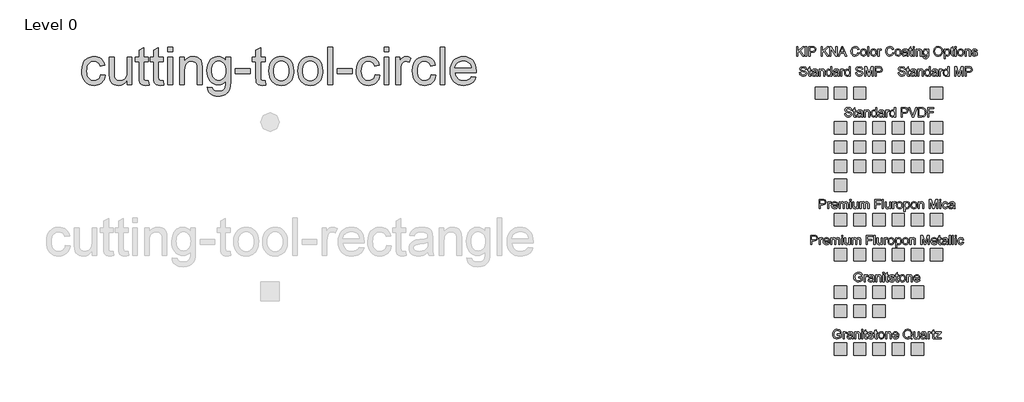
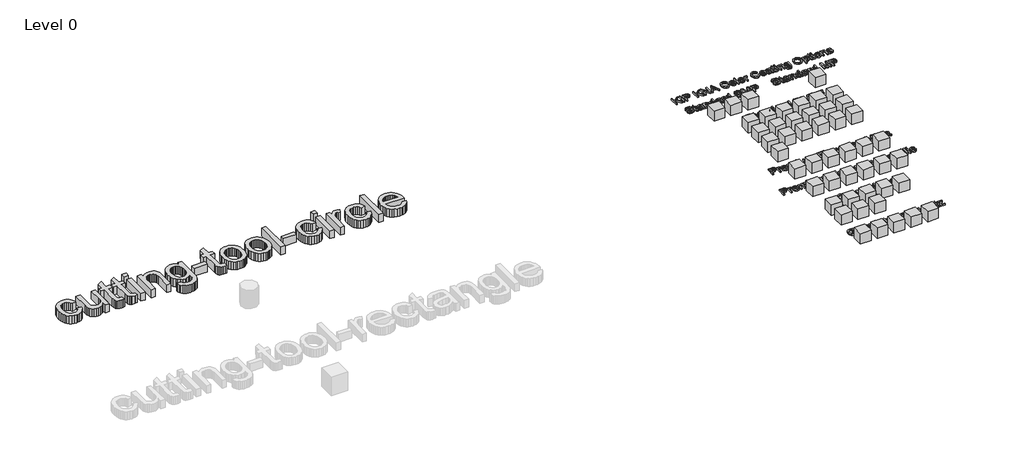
# One storey, part 5 of 5: 50 proxies.
"""IFC4 building model written with IfcOpenShell, lengths in millimetres."""

from ifc_helpers import new_model, si_unit, origin, origin_with_axes, place, context, project, spatial, polyline, outline, extrude, transform, mapped, element, save
from components import ks_color_sample_ks_color_sample_0243efec, r19_kna_color_range_kingspan_quadcore_4278cd54, r19_kna_color_range_kingspan_quadcore_c5814d20, r19_kna_color_range_kingspan_quadcore_91b79b7c

model = new_model("IFC4")

# Units and contexts
model_context = context("Model", 3, world=origin())
ifc_project = project(units=[si_unit("LENGTHUNIT", "METRE", prefix="MILLI")], contexts=[model_context])

# Site, building, storey
site = spatial("IfcSite", under=ifc_project)
building = spatial("IfcBuilding", under=site)
storey = spatial("IfcBuildingStorey", under=building, Name="Level 0", Elevation=0.0)

# Proxies
placement = place(None, origin())
element("IfcBuildingElementProxy", 1, Name="24\" Arial", ObjectType="24\" Arial", at=placement, inside=storey, context=model_context, shape_type="SweptSolid", body=[
    extrude(outline(polyline([(548.8505777, 13935.1809758), (624.9923512, 13925.6632541), (616.710818, 13889.7347842), (603.7633704, 13857.9424336), (586.1500085, 13830.2862023), (563.8707322, 13806.7660902), (537.8643013, 13787.9955444), (509.0694753, 13774.5880116), (477.4862543, 13766.543492), (443.1146383, 13763.8619854), (400.4103685, 13767.6030821), (362.1210574, 13778.8263721), (328.2467052, 13797.5318554), (298.7873117, 13823.719532), (274.9418869, 13856.8967855), (257.9094406, 13896.5709994), (247.6899729, 13942.7421737), (244.2834836, 13995.4103084), (250.1019346, 14063.1683075), (257.3749983, 14093.6594072), (267.5572874, 14121.8919068), (280.718512, 14147.2988328), (296.9283817, 14169.3132115), (316.1868967, 14187.935043), (338.4940569, 14203.1643272), (362.8413928, 14215.0057114), (388.2204349, 14223.4638429), (414.6311831, 14228.5387219), (442.0736375, 14230.2303482), (475.8550432, 14227.9066857), (506.4112054, 14220.9356981), (533.742124, 14209.3173855), (557.847799, 14193.0517479), (578.3192658, 14172.5105712), (594.7475598, 14148.0656414), (607.1326811, 14119.7169587), (615.4746295, 14087.4645229), (539.332856, 14077.9468012), (525.521006, 14111.1658806), (504.0131857, 14134.9787741), (475.9991103, 14149.3111246), (442.6684951, 14154.0885747), (416.7968366, 14151.7370282), (393.4626175, 14144.6823888), (372.6658379, 14132.9246564), (354.4064979, 14116.4638311), (339.539705, 14094.9188322), (328.9205673, 14067.9085791), (322.5490847, 14035.4330717), (320.4252571, 13997.49231), (322.5026114, 13958.9799274), (328.7346743, 13926.1279866), (339.1214458, 13898.9364878), (353.6629258, 13877.4054309), (371.5597746, 13861.0421994), (392.0126521, 13849.3541769), (415.0215584, 13842.3413634), (440.5864935, 13840.0037589), (480.0143991, 13845.8407992), (497.0654347, 13853.1370995), (512.3411921, 13863.35192), (525.4141175, 13876.5967963), (535.8566569, 13892.9832644), (543.6688103, 13912.5113243), (548.8505777, 13935.1809758)])), origin_with_axes(), (0.0, 0.0, 1.0), 152.4),
    extrude(outline(polyline([(977.1480537, 13773.3797071), (977.1480537, 13850.2650526), (949.5987109, 13812.4637107), (917.5135788, 13785.4627522), (880.8926574, 13769.2621771), (839.7359468, 13763.8619854), (802.650293, 13767.6542027), (768.1299625, 13779.0308544), (739.1678329, 13796.1330105), (718.7567813, 13817.1017411), (705.0192885, 13842.5690824), (696.0778351, 13873.1670705), (691.616403, 13943.9551255), (691.616403, 14220.7126265), (767.7581765, 14220.7126265), (767.7581765, 13979.7952963), (768.9107132, 13931.6118302), (772.368323, 13902.1663787), (783.4661352, 13876.2714836), (802.4829893, 13856.5854147), (828.1548128, 13844.1491729), (859.2175334, 13840.0037589), (892.0648268, 13844.2421194), (922.79294, 13856.9572007), (948.1301561, 13876.977877), (964.8047584, 13903.1330223), (974.0622299, 13938.9546038), (977.1480537, 13987.9745883), (977.1480537, 14220.7126265), (1053.2898272, 14220.7126265), (1053.2898272, 13773.3797071), (977.1480537, 13773.3797071)])), origin_with_axes(), (0.0, 0.0, 1.0), 152.4),
    extrude(outline(polyline([(1319.7860345, 13836.8807565), (1329.3037562, 13771.1489911), (1299.1519114, 13765.6837368), (1272.3461405, 13763.8619854), (1235.7995764, 13767.0221665), (1208.5476623, 13776.5027095), (1189.2891473, 13791.1138995), (1176.7227804, 13809.6660211), (1169.8075607, 13841.5280816), (1167.5024875, 13896.0690883), (1167.5024875, 14144.570853), (1110.3961574, 14144.570853), (1110.3961574, 14220.7126265), (1167.5024875, 14220.7126265), (1167.5024875, 14329.4228539), (1243.644261, 14374.1858888), (1243.644261, 14220.7126265), (1319.7860345, 14220.7126265), (1319.7860345, 14144.570853), (1243.644261, 14144.570853), (1243.644261, 13898.2998043), (1247.6595499, 13859.0392023), (1260.67206, 13845.1344058), (1271.6583364, 13841.2864207), (1286.622723, 13840.0037589), (1319.7860345, 13836.8807565)])), origin_with_axes(), (0.0, 0.0, 1.0), 152.4),
    extrude(outline(polyline([(1557.7290768, 13836.8807565), (1567.2467985, 13771.1489911), (1537.0949536, 13765.6837368), (1510.2891827, 13763.8619854), (1473.7426186, 13767.0221665), (1446.4907045, 13776.5027095), (1427.2321896, 13791.1138995), (1414.6658226, 13809.6660211), (1407.750603, 13841.5280816), (1405.4455298, 13896.0690883), (1405.4455298, 14144.570853), (1348.3391996, 14144.570853), (1348.3391996, 14220.7126265), (1405.4455298, 14220.7126265), (1405.4455298, 14329.4228539), (1481.5873033, 14374.1858888), (1481.5873033, 14220.7126265), (1557.7290768, 14220.7126265), (1557.7290768, 14144.570853), (1481.5873033, 14144.570853), (1481.5873033, 13898.2998043), (1485.6025921, 13859.0392023), (1498.6151022, 13845.1344058), (1509.6013786, 13841.2864207), (1524.5657653, 13840.0037589), (1557.7290768, 13836.8807565)])), origin_with_axes(), (0.0, 0.0, 1.0), 152.4),
    extrude(outline(polyline([(1633.8708503, 14306.3721217), (1633.8708503, 14382.5138952), (1710.0126238, 14382.5138952), (1710.0126238, 14306.3721217), (1633.8708503, 14306.3721217)])), origin_with_axes(), (0.0, 0.0, 1.0), 152.4),
    extrude(outline(polyline([(1633.8708503, 13773.3797071), (1633.8708503, 14220.7126265), (1710.0126238, 14220.7126265), (1710.0126238, 13773.3797071), (1633.8708503, 13773.3797071)])), origin_with_axes(), (0.0, 0.0, 1.0), 152.4),
    extrude(outline(polyline([(1824.2252841, 13773.3797071), (1824.2252841, 14220.7126265), (1900.3670576, 14220.7126265), (1900.3670576, 14158.2525779), (1926.8196318, 14189.7428524), (1958.5887458, 14212.2359056), (1995.6743996, 14225.7317376), (2038.0765933, 14230.2303482), (2075.6083904, 14226.6054347), (2109.9800064, 14215.7306941), (2138.6447073, 14198.9631453), (2159.0557588, 14177.6598073), (2172.9047875, 14151.876448), (2181.8834195, 14121.6688352), (2185.8987083, 14048.0552065), (2185.8987083, 13773.3797071), (2109.7569348, 13773.3797071), (2109.7569348, 14037.7939128), (2107.5633974, 14077.1660506), (2100.9827851, 14105.1615366), (2088.8439721, 14125.2193915), (2069.9758324, 14140.7786358), (2045.7911529, 14150.76109), (2017.7027203, 14154.0885747), (1994.5822782, 14152.22035), (1973.1069892, 14146.615676), (1953.2768532, 14137.2745527), (1935.0918703, 14124.19698), (1919.8997648, 14105.895814), (1909.0482608, 14080.8839106), (1902.5373584, 14049.1612699), (1900.3670576, 14010.7278917), (1900.3670576, 13773.3797071), (1824.2252841, 13773.3797071)])), origin_with_axes(), (0.0, 0.0, 1.0), 152.4),
    extrude(outline(polyline([(2271.5582035, 13735.3088204), (2347.699977, 13725.7910987), (2356.1023407, 13701.9967944), (2372.3865677, 13685.6382103), (2404.3973426, 13672.923129), (2446.2976252, 13668.6847685), (2490.9863028, 13673.480808), (2509.0365132, 13679.4758573), (2524.2239715, 13687.8689263), (2547.2747037, 13710.9196585), (2561.4025718, 13741.7035396), (2565.5293965, 13774.4578865), (2566.6075759, 13830.4860372), (2541.2703597, 13805.5020178), (2512.9960342, 13787.6562896), (2481.7845992, 13776.9488527), (2447.6360548, 13773.3797071), (2405.8891339, 13777.5344157), (2369.1334401, 13789.9985415), (2337.3689735, 13810.7720844), (2310.5957339, 13839.8550445), (2289.3528111, 13874.747161), (2274.1792948, 13912.9481728), (2265.0751851, 13954.4580801), (2262.0404818, 13999.2768828), (2267.4871468, 14060.7516985), (2283.8271416, 14117.2817603), (2295.9380707, 14142.7723382), (2310.4841981, 14165.1863869), (2327.4655238, 14184.5239064), (2346.8820478, 14200.7848967), (2368.4223994, 14213.6672818), (2391.7752077, 14222.8689853), (2416.9404729, 14228.3900075), (2443.9181947, 14230.2303482), (2479.5259992, 14226.066345), (2511.8434976, 14213.5743353), (2540.8706898, 14192.7543191), (2566.6075759, 14163.6062964), (2566.6075759, 14220.7126265), (2642.7493494, 14220.7126265), (2642.7493494, 13834.5013261), (2637.5443454, 13745.3284531), (2631.0380903, 13712.1604943), (2621.9293332, 13686.6048539), (2609.9996498, 13665.9939673), (2595.0306159, 13647.66027), (2577.0222313, 13631.603762), (2555.9744962, 13617.8244432), (2532.1011874, 13606.7638096), (2505.616082, 13598.8633571), (2476.5191799, 13594.1230855), (2444.8104811, 13592.542995), (2407.506403, 13594.7690637), (2373.9666582, 13601.4472698), (2344.1912466, 13612.5776133), (2318.1801683, 13628.1600941), (2297.1696118, 13648.2133017), (2282.3957655, 13672.7558253), (2273.8586294, 13701.7876648), (2271.5582035, 13735.3088204)]), holes=[polyline([(2338.1822553, 14004.4818869), (2340.2131364, 13966.8339067), (2346.3057795, 13934.6418861), (2356.4601847, 13907.9058252), (2370.676352, 13886.6257238), (2387.9597539, 13870.3926174), (2407.3158627, 13858.7975414), (2428.7446785, 13851.8404958), (2452.2462012, 13849.5214806), (2475.5153577, 13851.8265538), (2496.8419323, 13858.7417735), (2516.2259251, 13870.2671396), (2533.667336, 13886.4026522), (2548.0786909, 13907.4736239), (2558.3725159, 13933.8053676), (2564.5488109, 13965.3978833), (2566.6075759, 14002.2511709), (2564.4883957, 14037.5661939), (2558.130855, 14068.2617758), (2547.5349539, 14094.3379166), (2532.7006924, 14115.7946163), (2514.8828481, 14132.5482231), (2495.336199, 14144.5150851), (2474.060745, 14151.6952023), (2451.056486, 14154.0885747), (2428.437955, 14151.7323809), (2407.5761129, 14144.6637995), (2388.4709596, 14132.8828305), (2371.1224952, 14116.3894739), (2356.7111403, 14095.258087), (2346.4173153, 14069.5630268), (2340.2410203, 14039.3042934), (2338.1822553, 14004.4818869)])]), origin_with_axes(), (0.0, 0.0, 1.0), 152.4),
    extrude(outline(polyline([(2718.8911229, 13954.2164192), (2718.8911229, 14030.3581927), (2956.8341652, 14030.3581927), (2956.8341652, 13954.2164192), (2718.8911229, 13954.2164192)])), origin_with_axes(), (0.0, 0.0, 1.0), 152.4),
    extrude(outline(polyline([(3204.2949291, 13836.8807565), (3213.8126508, 13771.1489911), (3183.6608059, 13765.6837368), (3156.855035, 13763.8619854), (3120.3084709, 13767.0221665), (3093.0565568, 13776.5027095), (3073.7980419, 13791.1138995), (3061.2316749, 13809.6660211), (3054.3164553, 13841.5280816), (3052.0113821, 13896.0690883), (3052.0113821, 14144.570853), (2994.9050519, 14144.570853), (2994.9050519, 14220.7126265), (3052.0113821, 14220.7126265), (3052.0113821, 14329.4228539), (3128.1531556, 14374.1858888), (3128.1531556, 14220.7126265), (3204.2949291, 14220.7126265), (3204.2949291, 14144.570853), (3128.1531556, 14144.570853), (3128.1531556, 13898.2998043), (3132.1684444, 13859.0392023), (3145.1809545, 13845.1344058), (3156.1672309, 13841.2864207), (3171.1316176, 13840.0037589), (3204.2949291, 13836.8807565)])), origin_with_axes(), (0.0, 0.0, 1.0), 152.4),
    extrude(outline(polyline([(3261.4012592, 13997.0461668), (3265.5187892, 14054.9797208), (3277.8713792, 14104.9012864), (3298.4590291, 14146.8108637), (3327.2817391, 14180.7084525), (3356.2996366, 14202.3742819), (3388.3290008, 14217.8498743), (3423.3698317, 14227.1352297), (3461.4221291, 14230.2303482), (3503.4293002, 14226.4613676), (3541.4118878, 14215.1544258), (3575.3698919, 14196.3095227), (3605.3033125, 14169.9266584), (3629.7343002, 14136.8981194), (3647.1850058, 14098.1161919), (3657.6554291, 14053.580876), (3661.1455702, 14003.2921717), (3659.6026583, 13962.535131), (3654.9739225, 13926.3696476), (3647.259363, 13894.7957212), (3636.4589796, 13867.813352), (3622.7075448, 13844.5070169), (3606.139831, 13823.9611929), (3586.7558382, 13806.1758799), (3564.5555665, 13791.1510781), (3540.4034182, 13779.2121), (3515.1637959, 13770.6842586), (3488.8366995, 13765.5675537), (3461.4221291, 13763.8619854), (3418.8015111, 13767.6170241), (3380.4657269, 13778.88214), (3346.4147763, 13797.6573331), (3316.6486594, 13823.9426036), (3292.4779218, 13857.2918081), (3275.2131093, 13897.2588035), (3264.8542217, 13943.8435897), (3261.4012592, 13997.0461668)]), holes=[polyline([(3337.5430327, 13997.1948812), (3339.7458648, 13960.2625891), (3346.354361, 13928.2843455), (3357.3685214, 13901.2601503), (3372.7883459, 13879.1900037), (3391.5449498, 13862.0460216), (3412.5694483, 13849.8003201), (3435.8618414, 13842.4528992), (3461.4221291, 13840.0037589), (3486.8522918, 13842.4668412), (3510.0517384, 13849.856088), (3531.020469, 13862.1714994), (3549.7584835, 13879.4130753), (3565.178308, 13901.7016462), (3576.1924684, 13929.1580426), (3582.8009646, 13961.7822644), (3585.0037967, 13999.5743116), (3582.7870226, 14035.3354779), (3576.1367005, 14066.477203), (3565.0528303, 14092.999487), (3549.5354119, 14114.9023299), (3530.7276875, 14132.046312), (3509.7728989, 14144.2920135), (3486.6710461, 14151.6394344), (3461.4221291, 14154.0885747), (3435.8618414, 14151.648729), (3412.5694483, 14144.3291921), (3391.5449498, 14132.1299639), (3372.7883459, 14115.0510443), (3357.3685214, 14093.0459602), (3346.354361, 14066.0682384), (3339.7458648, 14034.1178787), (3337.5430327, 13997.1948812)])]), origin_with_axes(), (0.0, 0.0, 1.0), 152.4),
    extrude(outline(polyline([(3727.769622, 13997.0461668), (3731.887152, 14054.9797208), (3744.239742, 14104.9012864), (3764.8273919, 14146.8108637), (3793.6501018, 14180.7084525), (3822.6679994, 14202.3742819), (3854.6973636, 14217.8498743), (3889.7381944, 14227.1352297), (3927.7904919, 14230.2303482), (3969.797663, 14226.4613676), (4007.7802506, 14215.1544258), (4041.7382547, 14196.3095227), (4071.6716753, 14169.9266584), (4096.102663, 14136.8981194), (4113.5533686, 14098.1161919), (4124.0237919, 14053.580876), (4127.513933, 14003.2921717), (4125.9710211, 13962.535131), (4121.3422853, 13926.3696476), (4113.6277258, 13894.7957212), (4102.8273424, 13867.813352), (4089.0759075, 13844.5070169), (4072.5081938, 13823.9611929), (4053.124201, 13806.1758799), (4030.9239293, 13791.1510781), (4006.771781, 13779.2121), (3981.5321587, 13770.6842586), (3955.2050623, 13765.5675537), (3927.7904919, 13763.8619854), (3885.1698739, 13767.6170241), (3846.8340896, 13778.88214), (3812.783139, 13797.6573331), (3783.0170221, 13823.9426036), (3758.8462846, 13857.2918081), (3741.5814721, 13897.2588035), (3731.2225845, 13943.8435897), (3727.769622, 13997.0461668)]), holes=[polyline([(3803.9113955, 13997.1948812), (3806.1142276, 13960.2625891), (3812.7227238, 13928.2843455), (3823.7368842, 13901.2601503), (3839.1567087, 13879.1900037), (3857.9133125, 13862.0460216), (3878.937811, 13849.8003201), (3902.2302042, 13842.4528992), (3927.7904919, 13840.0037589), (3953.2206545, 13842.4668412), (3976.4201012, 13849.856088), (3997.3888318, 13862.1714994), (4016.1268463, 13879.4130753), (4031.5466708, 13901.7016462), (4042.5608312, 13929.1580426), (4049.1693274, 13961.7822644), (4051.3721595, 13999.5743116), (4049.1553854, 14035.3354779), (4042.5050633, 14066.477203), (4031.4211931, 14092.999487), (4015.9037747, 14114.9023299), (3997.0960503, 14132.046312), (3976.1412617, 14144.2920135), (3953.0394089, 14151.6394344), (3927.7904919, 14154.0885747), (3902.2302042, 14151.648729), (3878.937811, 14144.3291921), (3857.9133125, 14132.1299639), (3839.1567087, 14115.0510443), (3823.7368842, 14093.0459602), (3812.7227238, 14066.0682384), (3806.1142276, 14034.1178787), (3803.9113955, 13997.1948812)])]), origin_with_axes(), (0.0, 0.0, 1.0), 152.4),
    extrude(outline(polyline([(4213.1734282, 13773.3797071), (4213.1734282, 14382.5138952), (4289.3152017, 14382.5138952), (4289.3152017, 13773.3797071), (4213.1734282, 13773.3797071)])), origin_with_axes(), (0.0, 0.0, 1.0), 152.4),
    extrude(outline(polyline([(4365.4569752, 13954.2164192), (4365.4569752, 14030.3581927), (4603.4000175, 14030.3581927), (4603.4000175, 13954.2164192), (4365.4569752, 13954.2164192)])), origin_with_axes(), (0.0, 0.0, 1.0), 152.4),
    extrude(outline(polyline([(4974.5911634, 13935.1809758), (5050.7329369, 13925.6632541), (5042.4514037, 13889.7347842), (5029.5039561, 13857.9424336), (5011.8905942, 13830.2862023), (4989.6113179, 13806.7660902), (4963.604887, 13787.9955444), (4934.810061, 13774.5880116), (4903.22684, 13766.543492), (4868.855224, 13763.8619854), (4826.1509541, 13767.6030821), (4787.8616431, 13778.8263721), (4753.9872909, 13797.5318554), (4724.5278974, 13823.719532), (4700.6824726, 13856.8967855), (4683.6500263, 13896.5709994), (4673.4305586, 13942.7421737), (4670.0240693, 13995.4103084), (4675.8425203, 14063.1683075), (4683.1155839, 14093.6594072), (4693.2978731, 14121.8919068), (4706.4590976, 14147.2988328), (4722.6689674, 14169.3132115), (4741.9274824, 14187.935043), (4764.2346426, 14203.1643272), (4788.5819785, 14215.0057114), (4813.9610206, 14223.4638429), (4840.3717688, 14228.5387219), (4867.8142232, 14230.2303482), (4901.5956289, 14227.9066857), (4932.1517911, 14220.9356981), (4959.4827096, 14209.3173855), (4983.5883846, 14193.0517479), (5004.0598515, 14172.5105712), (5020.4881455, 14148.0656414), (5032.8732667, 14119.7169587), (5041.2152152, 14087.4645229), (4965.0734417, 14077.9468012), (4951.2615916, 14111.1658806), (4929.7537713, 14134.9787741), (4901.739696, 14149.3111246), (4868.4090808, 14154.0885747), (4842.5374222, 14151.7370282), (4819.2032032, 14144.6823888), (4798.4064236, 14132.9246564), (4780.1470835, 14116.4638311), (4765.2802907, 14094.9188322), (4754.661153, 14067.9085791), (4748.2896704, 14035.4330717), (4746.1658428, 13997.49231), (4748.2431971, 13958.9799274), (4754.47526, 13926.1279866), (4764.8620315, 13898.9364878), (4779.4035115, 13877.4054309), (4797.3003603, 13861.0421994), (4817.7532378, 13849.3541769), (4840.7621441, 13842.3413634), (4866.3270791, 13840.0037589), (4905.7549848, 13845.8407992), (4922.8060204, 13853.1370995), (4938.0817778, 13863.35192), (4951.1547032, 13876.5967963), (4961.5972425, 13892.9832644), (4969.4093959, 13912.5113243), (4974.5911634, 13935.1809758)])), origin_with_axes(), (0.0, 0.0, 1.0), 152.4),
    extrude(outline(polyline([(5117.3569887, 14306.3721217), (5117.3569887, 14382.5138952), (5193.4987622, 14382.5138952), (5193.4987622, 14306.3721217), (5117.3569887, 14306.3721217)])), origin_with_axes(), (0.0, 0.0, 1.0), 152.4),
    extrude(outline(polyline([(5117.3569887, 13773.3797071), (5117.3569887, 14220.7126265), (5193.4987622, 14220.7126265), (5193.4987622, 13773.3797071), (5117.3569887, 13773.3797071)])), origin_with_axes(), (0.0, 0.0, 1.0), 152.4),
    extrude(outline(polyline([(5307.7114225, 13773.3797071), (5307.7114225, 14220.7126265), (5374.3354743, 14220.7126265), (5374.3354743, 14154.5347179), (5398.9477078, 14192.9030335), (5421.626654, 14215.5076225), (5444.3799574, 14226.5496668), (5469.2152624, 14230.2303482), (5507.1374348, 14224.3561294), (5545.6544647, 14206.7334728), (5520.2243021, 14138.4735625), (5493.4557099, 14150.1848217), (5466.6871176, 14154.0885747), (5443.9524035, 14150.3335361), (5423.6342984, 14139.0684202), (5407.2199463, 14121.1483348), (5396.1964913, 14097.4283878), (5386.9390198, 14054.896069), (5383.853196, 14008.4971757), (5383.853196, 13773.3797071), (5307.7114225, 13773.3797071)])), origin_with_axes(), (0.0, 0.0, 1.0), 152.4),
    extrude(outline(polyline([(5878.7747239, 13935.1809758), (5954.9164974, 13925.6632541), (5946.6349642, 13889.7347842), (5933.6875166, 13857.9424336), (5916.0741547, 13830.2862023), (5893.7948784, 13806.7660902), (5867.7884475, 13787.9955444), (5838.9936215, 13774.5880116), (5807.4104005, 13766.543492), (5773.0387845, 13763.8619854), (5730.3345147, 13767.6030821), (5692.0452036, 13778.8263721), (5658.1708514, 13797.5318554), (5628.7114579, 13823.719532), (5604.8660331, 13856.8967855), (5587.8335868, 13896.5709994), (5577.6141191, 13942.7421737), (5574.2076298, 13995.4103084), (5580.0260808, 14063.1683075), (5587.2991445, 14093.6594072), (5597.4814336, 14121.8919068), (5610.6426582, 14147.2988328), (5626.8525279, 14169.3132115), (5646.1110429, 14187.935043), (5668.4182031, 14203.1643272), (5692.765539, 14215.0057114), (5718.1445811, 14223.4638429), (5744.5553293, 14228.5387219), (5771.9977837, 14230.2303482), (5805.7791894, 14227.9066857), (5836.3353516, 14220.9356981), (5863.6662702, 14209.3173855), (5887.7719452, 14193.0517479), (5908.243412, 14172.5105712), (5924.671706, 14148.0656414), (5937.0568273, 14119.7169587), (5945.3987757, 14087.4645229), (5869.2570022, 14077.9468012), (5855.4451522, 14111.1658806), (5833.9373319, 14134.9787741), (5805.9232565, 14149.3111246), (5772.5926413, 14154.0885747), (5746.7209828, 14151.7370282), (5723.3867637, 14144.6823888), (5702.5899841, 14132.9246564), (5684.330644, 14116.4638311), (5669.4638512, 14094.9188322), (5658.8447135, 14067.9085791), (5652.4732309, 14035.4330717), (5650.3494033, 13997.49231), (5652.4267576, 13958.9799274), (5658.6588205, 13926.1279866), (5669.045592, 13898.9364878), (5683.587072, 13877.4054309), (5701.4839208, 13861.0421994), (5721.9367983, 13849.3541769), (5744.9457046, 13842.3413634), (5770.5106397, 13840.0037589), (5809.9385453, 13845.8407992), (5826.9895809, 13853.1370995), (5842.2653383, 13863.35192), (5855.3382637, 13876.5967963), (5865.7808031, 13892.9832644), (5873.5929565, 13912.5113243), (5878.7747239, 13935.1809758)])), origin_with_axes(), (0.0, 0.0, 1.0), 152.4),
    extrude(outline(polyline([(6021.5405492, 13773.3797071), (6021.5405492, 14382.5138952), (6097.6823227, 14382.5138952), (6097.6823227, 13773.3797071), (6021.5405492, 13773.3797071)])), origin_with_axes(), (0.0, 0.0, 1.0), 152.4),
    extrude(outline(polyline([(6525.0875124, 13906.6278108), (6599.7421419, 13897.1100891), (6588.2957803, 13867.2091997), (6572.8434245, 13840.8588667), (6553.3850746, 13818.0590901), (6529.9207304, 13798.8098698), (6502.692053, 13783.5201704), (6471.9407032, 13772.5989565), (6437.666681, 13766.0462282), (6399.8699864, 13763.8619854), (6352.62528, 13767.630966), (6310.5298097, 13778.9379079), (6273.5835756, 13797.7828109), (6241.7865777, 13824.1656752), (6216.2169953, 13857.3522233), (6197.9530079, 13896.608178), (6186.9946154, 13941.9335391), (6183.3418179, 13993.3283068), (6187.031794, 14046.4658213), (6198.1017223, 14093.3015631), (6216.5516027, 14133.8355322), (6242.3814353, 14168.0677284), (6274.0947814, 14195.2638746), (6310.1952023, 14214.6896933), (6350.6826981, 14226.3451845), (6395.5572687, 14230.2303482), (6438.9865213, 14226.3544791), (6478.2610652, 14214.7268719), (6513.3809006, 14195.3475264), (6544.3460273, 14168.2164428), (6569.6228283, 14134.0586038), (6587.6776861, 14093.5989919), (6598.5106007, 14046.8376073), (6602.1215723, 13993.77445), (6601.6754291, 13973.2518626), (6259.4835915, 13973.2518626), (6263.8939029, 13942.8676515), (6272.6634053, 13916.2570683), (6285.7920985, 13893.420113), (6303.2799827, 13874.3567857), (6324.1604141, 13859.3273365), (6347.4667492, 13848.5920156), (6373.198988, 13842.1508231), (6401.3571304, 13840.0037589), (6441.8818048, 13843.9818692), (6476.0117599, 13855.9161999), (6503.7469958, 13876.5503231), (6525.0875124, 13906.6278108)]), holes=[polyline([(6259.4835915, 14049.3936361), (6525.9797988, 14049.3936361), (6515.6813265, 14089.6208817), (6506.8235249, 14105.4403761), (6495.4933465, 14118.3971184), (6474.7290982, 14134.0121305), (6451.1020977, 14145.1657106), (6424.6123449, 14151.8578587), (6395.2598399, 14154.0885747), (6368.4866004, 14152.3086492), (6343.9347822, 14146.9688727), (6321.6043853, 14138.0692453), (6301.4954099, 14125.6097668), (6284.6209726, 14110.1667057), (6271.9941905, 14092.3163302), (6263.6150634, 14072.0586403), (6259.4835915, 14049.3936361)])]), origin_with_axes(), (0.0, 0.0, 1.0), 152.4),
])
ks_color_sample_ks_color_sample_shape = ks_color_sample_ks_color_sample_0243efec(model_context)
element("IfcBuildingElementProxy", 2, Name="KS_Color Sample : KS_Color Sample", ObjectType="KS_Color Sample : KS_Color Sample", at=placement, inside=storey, context=model_context, shape_type="MappedRepresentation", body=[
    mapped(ks_color_sample_ks_color_sample_shape, transform((12166.5853815, 13639.2290821, 0.0), x_axis=(1.0, 0.0, 0.0), y_axis=(0.0, 1.0, 0.0), z_axis=(0.0, 0.0, 1.0))),
])
element("IfcBuildingElementProxy", 3, Name="KS_Color Sample : KS_Color Sample", ObjectType="KS_Color Sample : KS_Color Sample", at=placement, inside=storey, context=model_context, shape_type="MappedRepresentation", body=[
    mapped(ks_color_sample_ks_color_sample_shape, transform((12476.5853815, 13639.2290821, 0.0), x_axis=(1.0, 0.0, 0.0), y_axis=(0.0, 1.0, 0.0), z_axis=(0.0, 0.0, 1.0))),
])
element("IfcBuildingElementProxy", 4, Name="KS_Color Sample : KS_Color Sample", ObjectType="KS_Color Sample : KS_Color Sample", at=placement, inside=storey, context=model_context, shape_type="MappedRepresentation", body=[
    mapped(ks_color_sample_ks_color_sample_shape, transform((12786.5853815, 13639.2290821, 0.0), x_axis=(1.0, 0.0, 0.0), y_axis=(0.0, 1.0, 0.0), z_axis=(0.0, 0.0, 1.0))),
])
element("IfcBuildingElementProxy", 5, Name="KS_Color Sample : KS_Color Sample", ObjectType="KS_Color Sample : KS_Color Sample", at=placement, inside=storey, context=model_context, shape_type="MappedRepresentation", body=[
    mapped(ks_color_sample_ks_color_sample_shape, transform((14026.5853815, 13639.2290821, 0.0), x_axis=(1.0, 0.0, 0.0), y_axis=(0.0, 1.0, 0.0), z_axis=(0.0, 0.0, 1.0))),
])
element("IfcBuildingElementProxy", 6, Name="KS_Color Sample : KS_Color Sample", ObjectType="KS_Color Sample : KS_Color Sample", at=placement, inside=storey, context=model_context, shape_type="MappedRepresentation", body=[
    mapped(ks_color_sample_ks_color_sample_shape, transform((12786.5853815, 13079.2290821, 0.0), x_axis=(1.0, 0.0, 0.0), y_axis=(0.0, 1.0, 0.0), z_axis=(0.0, 0.0, 1.0))),
])
element("IfcBuildingElementProxy", 7, Name="KS_Color Sample : KS_Color Sample", ObjectType="KS_Color Sample : KS_Color Sample", at=placement, inside=storey, context=model_context, shape_type="MappedRepresentation", body=[
    mapped(ks_color_sample_ks_color_sample_shape, transform((13096.5853815, 13079.2290821, 0.0), x_axis=(1.0, 0.0, 0.0), y_axis=(0.0, 1.0, 0.0), z_axis=(0.0, 0.0, 1.0))),
])
element("IfcBuildingElementProxy", 8, Name="KS_Color Sample : KS_Color Sample", ObjectType="KS_Color Sample : KS_Color Sample", at=placement, inside=storey, context=model_context, shape_type="MappedRepresentation", body=[
    mapped(ks_color_sample_ks_color_sample_shape, transform((13406.5853815, 13079.2290821, 0.0), x_axis=(1.0, 0.0, 0.0), y_axis=(0.0, 1.0, 0.0), z_axis=(0.0, 0.0, 1.0))),
])
element("IfcBuildingElementProxy", 9, Name="KS_Color Sample : KS_Color Sample", ObjectType="KS_Color Sample : KS_Color Sample", at=placement, inside=storey, context=model_context, shape_type="MappedRepresentation", body=[
    mapped(ks_color_sample_ks_color_sample_shape, transform((13716.5853815, 13079.2290821, 0.0), x_axis=(1.0, 0.0, 0.0), y_axis=(0.0, 1.0, 0.0), z_axis=(0.0, 0.0, 1.0))),
])
element("IfcBuildingElementProxy", 10, Name="KS_Color Sample : KS_Color Sample", ObjectType="KS_Color Sample : KS_Color Sample", at=placement, inside=storey, context=model_context, shape_type="MappedRepresentation", body=[
    mapped(ks_color_sample_ks_color_sample_shape, transform((12476.5853815, 11599.2290821, 0.0), x_axis=(1.0, 0.0, 0.0), y_axis=(0.0, 1.0, 0.0), z_axis=(0.0, 0.0, 1.0))),
])
element("IfcBuildingElementProxy", 11, Name="KS_Color Sample : KS_Color Sample", ObjectType="KS_Color Sample : KS_Color Sample", at=placement, inside=storey, context=model_context, shape_type="MappedRepresentation", body=[
    mapped(ks_color_sample_ks_color_sample_shape, transform((12786.5853815, 11599.2290821, 0.0), x_axis=(1.0, 0.0, 0.0), y_axis=(0.0, 1.0, 0.0), z_axis=(0.0, 0.0, 1.0))),
])
element("IfcBuildingElementProxy", 12, Name="KS_Color Sample : KS_Color Sample", ObjectType="KS_Color Sample : KS_Color Sample", at=placement, inside=storey, context=model_context, shape_type="MappedRepresentation", body=[
    mapped(ks_color_sample_ks_color_sample_shape, transform((13096.5853815, 11599.2290821, 0.0), x_axis=(1.0, 0.0, 0.0), y_axis=(0.0, 1.0, 0.0), z_axis=(0.0, 0.0, 1.0))),
])
element("IfcBuildingElementProxy", 13, Name="KS_Color Sample : KS_Color Sample", ObjectType="KS_Color Sample : KS_Color Sample", at=placement, inside=storey, context=model_context, shape_type="MappedRepresentation", body=[
    mapped(ks_color_sample_ks_color_sample_shape, transform((13406.5853815, 11599.2290821, 0.0), x_axis=(1.0, 0.0, 0.0), y_axis=(0.0, 1.0, 0.0), z_axis=(0.0, 0.0, 1.0))),
])
element("IfcBuildingElementProxy", 14, Name="KS_Color Sample : KS_Color Sample", ObjectType="KS_Color Sample : KS_Color Sample", at=placement, inside=storey, context=model_context, shape_type="MappedRepresentation", body=[
    mapped(ks_color_sample_ks_color_sample_shape, transform((14026.5853815, 13079.2290821, 0.0), x_axis=(1.0, 0.0, 0.0), y_axis=(0.0, 1.0, 0.0), z_axis=(0.0, 0.0, 1.0))),
])
element("IfcBuildingElementProxy", 15, Name="KS_Color Sample : KS_Color Sample", ObjectType="KS_Color Sample : KS_Color Sample", at=placement, inside=storey, context=model_context, shape_type="MappedRepresentation", body=[
    mapped(ks_color_sample_ks_color_sample_shape, transform((13716.5853815, 12769.2290821, 0.0), x_axis=(1.0, 0.0, 0.0), y_axis=(0.0, 1.0, 0.0), z_axis=(0.0, 0.0, 1.0))),
])
element("IfcBuildingElementProxy", 16, Name="KS_Color Sample : KS_Color Sample", ObjectType="KS_Color Sample : KS_Color Sample", at=placement, inside=storey, context=model_context, shape_type="MappedRepresentation", body=[
    mapped(ks_color_sample_ks_color_sample_shape, transform((14026.5853815, 12769.2290821, 0.0), x_axis=(1.0, 0.0, 0.0), y_axis=(0.0, 1.0, 0.0), z_axis=(0.0, 0.0, 1.0))),
])
element("IfcBuildingElementProxy", 17, Name="KS_Color Sample : KS_Color Sample", ObjectType="KS_Color Sample : KS_Color Sample", at=placement, inside=storey, context=model_context, shape_type="MappedRepresentation", body=[
    mapped(ks_color_sample_ks_color_sample_shape, transform((12476.5853815, 12769.2290821, 0.0), x_axis=(1.0, 0.0, 0.0), y_axis=(0.0, 1.0, 0.0), z_axis=(0.0, 0.0, 1.0))),
])
element("IfcBuildingElementProxy", 18, Name="KS_Color Sample : KS_Color Sample", ObjectType="KS_Color Sample : KS_Color Sample", at=placement, inside=storey, context=model_context, shape_type="MappedRepresentation", body=[
    mapped(ks_color_sample_ks_color_sample_shape, transform((13096.5853815, 12769.2290821, 0.0), x_axis=(1.0, 0.0, 0.0), y_axis=(0.0, 1.0, 0.0), z_axis=(0.0, 0.0, 1.0))),
])
element("IfcBuildingElementProxy", 19, Name="KS_Color Sample : KS_Color Sample", ObjectType="KS_Color Sample : KS_Color Sample", at=placement, inside=storey, context=model_context, shape_type="MappedRepresentation", body=[
    mapped(ks_color_sample_ks_color_sample_shape, transform((13406.5853815, 12769.2290821, 0.0), x_axis=(1.0, 0.0, 0.0), y_axis=(0.0, 1.0, 0.0), z_axis=(0.0, 0.0, 1.0))),
])
element("IfcBuildingElementProxy", 20, Name="KS_Color Sample : KS_Color Sample", ObjectType="KS_Color Sample : KS_Color Sample", at=placement, inside=storey, context=model_context, shape_type="MappedRepresentation", body=[
    mapped(ks_color_sample_ks_color_sample_shape, transform((12476.5853815, 12459.2290821, 0.0), x_axis=(1.0, 0.0, 0.0), y_axis=(0.0, 1.0, 0.0), z_axis=(0.0, 0.0, 1.0))),
])
element("IfcBuildingElementProxy", 21, Name="KS_Color Sample : KS_Color Sample", ObjectType="KS_Color Sample : KS_Color Sample", at=placement, inside=storey, context=model_context, shape_type="MappedRepresentation", body=[
    mapped(ks_color_sample_ks_color_sample_shape, transform((12786.5853815, 12459.2290821, 0.0), x_axis=(1.0, 0.0, 0.0), y_axis=(0.0, 1.0, 0.0), z_axis=(0.0, 0.0, 1.0))),
])
element("IfcBuildingElementProxy", 22, Name="KS_Color Sample : KS_Color Sample", ObjectType="KS_Color Sample : KS_Color Sample", at=placement, inside=storey, context=model_context, shape_type="MappedRepresentation", body=[
    mapped(ks_color_sample_ks_color_sample_shape, transform((13096.5853815, 12459.2290821, 0.0), x_axis=(1.0, 0.0, 0.0), y_axis=(0.0, 1.0, 0.0), z_axis=(0.0, 0.0, 1.0))),
])
element("IfcBuildingElementProxy", 23, Name="KS_Color Sample : KS_Color Sample", ObjectType="KS_Color Sample : KS_Color Sample", at=placement, inside=storey, context=model_context, shape_type="MappedRepresentation", body=[
    mapped(ks_color_sample_ks_color_sample_shape, transform((13406.5853815, 12459.2290821, 0.0), x_axis=(1.0, 0.0, 0.0), y_axis=(0.0, 1.0, 0.0), z_axis=(0.0, 0.0, 1.0))),
])
element("IfcBuildingElementProxy", 24, Name="KS_Color Sample : KS_Color Sample", ObjectType="KS_Color Sample : KS_Color Sample", at=placement, inside=storey, context=model_context, shape_type="MappedRepresentation", body=[
    mapped(ks_color_sample_ks_color_sample_shape, transform((13716.5853815, 12459.2290821, 0.0), x_axis=(1.0, 0.0, 0.0), y_axis=(0.0, 1.0, 0.0), z_axis=(0.0, 0.0, 1.0))),
])
element("IfcBuildingElementProxy", 25, Name="KS_Color Sample : KS_Color Sample", ObjectType="KS_Color Sample : KS_Color Sample", at=placement, inside=storey, context=model_context, shape_type="MappedRepresentation", body=[
    mapped(ks_color_sample_ks_color_sample_shape, transform((14026.5853815, 12459.2290821, 0.0), x_axis=(1.0, 0.0, 0.0), y_axis=(0.0, 1.0, 0.0), z_axis=(0.0, 0.0, 1.0))),
])
element("IfcBuildingElementProxy", 26, Name="KS_Color Sample : KS_Color Sample", ObjectType="KS_Color Sample : KS_Color Sample", at=placement, inside=storey, context=model_context, shape_type="MappedRepresentation", body=[
    mapped(ks_color_sample_ks_color_sample_shape, transform((12476.5853815, 12149.2290821, 0.0), x_axis=(1.0, 0.0, 0.0), y_axis=(0.0, 1.0, 0.0), z_axis=(0.0, 0.0, 1.0))),
])
element("IfcBuildingElementProxy", 27, Name="KS_Color Sample : KS_Color Sample", ObjectType="KS_Color Sample : KS_Color Sample", at=placement, inside=storey, context=model_context, shape_type="MappedRepresentation", body=[
    mapped(ks_color_sample_ks_color_sample_shape, transform((13716.5853815, 11599.2290821, 0.0), x_axis=(1.0, 0.0, 0.0), y_axis=(0.0, 1.0, 0.0), z_axis=(0.0, 0.0, 1.0))),
])
element("IfcBuildingElementProxy", 28, Name="KS_Color Sample : KS_Color Sample", ObjectType="KS_Color Sample : KS_Color Sample", at=placement, inside=storey, context=model_context, shape_type="MappedRepresentation", body=[
    mapped(ks_color_sample_ks_color_sample_shape, transform((14026.5853815, 11599.2290821, 0.0), x_axis=(1.0, 0.0, 0.0), y_axis=(0.0, 1.0, 0.0), z_axis=(0.0, 0.0, 1.0))),
])
element("IfcBuildingElementProxy", 29, Name="KS_Color Sample : KS_Color Sample", ObjectType="KS_Color Sample : KS_Color Sample", at=placement, inside=storey, context=model_context, shape_type="MappedRepresentation", body=[
    mapped(ks_color_sample_ks_color_sample_shape, transform((12476.5853815, 11029.2290821, 0.0), x_axis=(1.0, 0.0, 0.0), y_axis=(0.0, 1.0, 0.0), z_axis=(0.0, 0.0, 1.0))),
])
element("IfcBuildingElementProxy", 30, Name="KS_Color Sample : KS_Color Sample", ObjectType="KS_Color Sample : KS_Color Sample", at=placement, inside=storey, context=model_context, shape_type="MappedRepresentation", body=[
    mapped(ks_color_sample_ks_color_sample_shape, transform((12786.5853815, 11029.2290821, 0.0), x_axis=(1.0, 0.0, 0.0), y_axis=(0.0, 1.0, 0.0), z_axis=(0.0, 0.0, 1.0))),
])
element("IfcBuildingElementProxy", 31, Name="KS_Color Sample : KS_Color Sample", ObjectType="KS_Color Sample : KS_Color Sample", at=placement, inside=storey, context=model_context, shape_type="MappedRepresentation", body=[
    mapped(ks_color_sample_ks_color_sample_shape, transform((13096.5853815, 11029.2290821, 0.0), x_axis=(1.0, 0.0, 0.0), y_axis=(0.0, 1.0, 0.0), z_axis=(0.0, 0.0, 1.0))),
])
element("IfcBuildingElementProxy", 32, Name="KS_Color Sample : KS_Color Sample", ObjectType="KS_Color Sample : KS_Color Sample", at=placement, inside=storey, context=model_context, shape_type="MappedRepresentation", body=[
    mapped(ks_color_sample_ks_color_sample_shape, transform((13406.5853815, 11029.2290821, 0.0), x_axis=(1.0, 0.0, 0.0), y_axis=(0.0, 1.0, 0.0), z_axis=(0.0, 0.0, 1.0))),
])
element("IfcBuildingElementProxy", 33, Name="KS_Color Sample : KS_Color Sample", ObjectType="KS_Color Sample : KS_Color Sample", at=placement, inside=storey, context=model_context, shape_type="MappedRepresentation", body=[
    mapped(ks_color_sample_ks_color_sample_shape, transform((13716.5853815, 11029.2290821, 0.0), x_axis=(1.0, 0.0, 0.0), y_axis=(0.0, 1.0, 0.0), z_axis=(0.0, 0.0, 1.0))),
])
element("IfcBuildingElementProxy", 34, Name="KS_Color Sample : KS_Color Sample", ObjectType="KS_Color Sample : KS_Color Sample", at=placement, inside=storey, context=model_context, shape_type="MappedRepresentation", body=[
    mapped(ks_color_sample_ks_color_sample_shape, transform((14026.5853815, 11029.2290821, 0.0), x_axis=(1.0, 0.0, 0.0), y_axis=(0.0, 1.0, 0.0), z_axis=(0.0, 0.0, 1.0))),
])
element("IfcBuildingElementProxy", 35, Name="KS_Color Sample : KS_Color Sample", ObjectType="KS_Color Sample : KS_Color Sample", at=placement, inside=storey, context=model_context, shape_type="MappedRepresentation", body=[
    mapped(ks_color_sample_ks_color_sample_shape, transform((12476.5853815, 10429.2290821, 0.0), x_axis=(1.0, 0.0, 0.0), y_axis=(0.0, 1.0, 0.0), z_axis=(0.0, 0.0, 1.0))),
])
element("IfcBuildingElementProxy", 36, Name="KS_Color Sample : KS_Color Sample", ObjectType="KS_Color Sample : KS_Color Sample", at=placement, inside=storey, context=model_context, shape_type="MappedRepresentation", body=[
    mapped(ks_color_sample_ks_color_sample_shape, transform((12786.5853815, 10429.2290821, 0.0), x_axis=(1.0, 0.0, 0.0), y_axis=(0.0, 1.0, 0.0), z_axis=(0.0, 0.0, 1.0))),
])
element("IfcBuildingElementProxy", 37, Name="KS_Color Sample : KS_Color Sample", ObjectType="KS_Color Sample : KS_Color Sample", at=placement, inside=storey, context=model_context, shape_type="MappedRepresentation", body=[
    mapped(ks_color_sample_ks_color_sample_shape, transform((13096.5853815, 10429.2290821, 0.0), x_axis=(1.0, 0.0, 0.0), y_axis=(0.0, 1.0, 0.0), z_axis=(0.0, 0.0, 1.0))),
])
element("IfcBuildingElementProxy", 38, Name="KS_Color Sample : KS_Color Sample", ObjectType="KS_Color Sample : KS_Color Sample", at=placement, inside=storey, context=model_context, shape_type="MappedRepresentation", body=[
    mapped(ks_color_sample_ks_color_sample_shape, transform((13406.5853815, 10429.2290821, 0.0), x_axis=(1.0, 0.0, 0.0), y_axis=(0.0, 1.0, 0.0), z_axis=(0.0, 0.0, 1.0))),
])
element("IfcBuildingElementProxy", 39, Name="KS_Color Sample : KS_Color Sample", ObjectType="KS_Color Sample : KS_Color Sample", at=placement, inside=storey, context=model_context, shape_type="MappedRepresentation", body=[
    mapped(ks_color_sample_ks_color_sample_shape, transform((13716.5853815, 10429.2290821, 0.0), x_axis=(1.0, 0.0, 0.0), y_axis=(0.0, 1.0, 0.0), z_axis=(0.0, 0.0, 1.0))),
])
element("IfcBuildingElementProxy", 40, Name="KS_Color Sample : KS_Color Sample", ObjectType="KS_Color Sample : KS_Color Sample", at=placement, inside=storey, context=model_context, shape_type="MappedRepresentation", body=[
    mapped(ks_color_sample_ks_color_sample_shape, transform((12476.5853815, 10119.2290821, 0.0), x_axis=(1.0, 0.0, 0.0), y_axis=(0.0, 1.0, 0.0), z_axis=(0.0, 0.0, 1.0))),
])
element("IfcBuildingElementProxy", 41, Name="KS_Color Sample : KS_Color Sample", ObjectType="KS_Color Sample : KS_Color Sample", at=placement, inside=storey, context=model_context, shape_type="MappedRepresentation", body=[
    mapped(ks_color_sample_ks_color_sample_shape, transform((12786.5853815, 10119.2290821, 0.0), x_axis=(1.0, 0.0, 0.0), y_axis=(0.0, 1.0, 0.0), z_axis=(0.0, 0.0, 1.0))),
])
element("IfcBuildingElementProxy", 42, Name="KS_Color Sample : KS_Color Sample", ObjectType="KS_Color Sample : KS_Color Sample", at=placement, inside=storey, context=model_context, shape_type="MappedRepresentation", body=[
    mapped(ks_color_sample_ks_color_sample_shape, transform((13096.5853815, 10119.2290821, 0.0), x_axis=(1.0, 0.0, 0.0), y_axis=(0.0, 1.0, 0.0), z_axis=(0.0, 0.0, 1.0))),
])
element("IfcBuildingElementProxy", 43, Name="KS_Color Sample : KS_Color Sample", ObjectType="KS_Color Sample : KS_Color Sample", at=placement, inside=storey, context=model_context, shape_type="MappedRepresentation", body=[
    mapped(ks_color_sample_ks_color_sample_shape, transform((12476.5853815, 9509.2290821, 0.0), x_axis=(1.0, 0.0, 0.0), y_axis=(0.0, 1.0, 0.0), z_axis=(0.0, 0.0, 1.0))),
])
element("IfcBuildingElementProxy", 44, Name="KS_Color Sample : KS_Color Sample", ObjectType="KS_Color Sample : KS_Color Sample", at=placement, inside=storey, context=model_context, shape_type="MappedRepresentation", body=[
    mapped(ks_color_sample_ks_color_sample_shape, transform((12786.5853815, 9509.2290821, 0.0), x_axis=(1.0, 0.0, 0.0), y_axis=(0.0, 1.0, 0.0), z_axis=(0.0, 0.0, 1.0))),
])
element("IfcBuildingElementProxy", 45, Name="KS_Color Sample : KS_Color Sample", ObjectType="KS_Color Sample : KS_Color Sample", at=placement, inside=storey, context=model_context, shape_type="MappedRepresentation", body=[
    mapped(ks_color_sample_ks_color_sample_shape, transform((13096.5853815, 9509.2290821, 0.0), x_axis=(1.0, 0.0, 0.0), y_axis=(0.0, 1.0, 0.0), z_axis=(0.0, 0.0, 1.0))),
])
element("IfcBuildingElementProxy", 46, Name="KS_Color Sample : KS_Color Sample", ObjectType="KS_Color Sample : KS_Color Sample", at=placement, inside=storey, context=model_context, shape_type="MappedRepresentation", body=[
    mapped(ks_color_sample_ks_color_sample_shape, transform((13406.5853815, 9509.2290821, 0.0), x_axis=(1.0, 0.0, 0.0), y_axis=(0.0, 1.0, 0.0), z_axis=(0.0, 0.0, 1.0))),
])
element("IfcBuildingElementProxy", 47, Name="KS_Color Sample : KS_Color Sample", ObjectType="KS_Color Sample : KS_Color Sample", at=placement, inside=storey, context=model_context, shape_type="MappedRepresentation", body=[
    mapped(ks_color_sample_ks_color_sample_shape, transform((13716.5853815, 9509.2290821, 0.0), x_axis=(1.0, 0.0, 0.0), y_axis=(0.0, 1.0, 0.0), z_axis=(0.0, 0.0, 1.0))),
])
element("IfcBuildingElementProxy", 48, Name="KS_Color Sample : KS_Color Sample", ObjectType="KS_Color Sample : KS_Color Sample", at=placement, inside=storey, context=model_context, shape_type="MappedRepresentation", body=[
    mapped(ks_color_sample_ks_color_sample_shape, transform((12476.5853815, 13079.2290821, 0.0), x_axis=(1.0, 0.0, 0.0), y_axis=(0.0, 1.0, 0.0), z_axis=(0.0, 0.0, 1.0))),
])
element("IfcBuildingElementProxy", 49, Name="KS_Color Sample : KS_Color Sample", ObjectType="KS_Color Sample : KS_Color Sample", at=placement, inside=storey, context=model_context, shape_type="MappedRepresentation", body=[
    mapped(ks_color_sample_ks_color_sample_shape, transform((12786.5853815, 12769.2290821, 0.0), x_axis=(1.0, 0.0, 0.0), y_axis=(0.0, 1.0, 0.0), z_axis=(0.0, 0.0, 1.0))),
])
r19_kna_color_range_kingspan_quadcore_shape = r19_kna_color_range_kingspan_quadcore_4278cd54(model_context)
r19_kna_color_range_kingspan_quadcore_2_shape = r19_kna_color_range_kingspan_quadcore_c5814d20(model_context)
r19_kna_color_range_kingspan_quadcore_3_shape = r19_kna_color_range_kingspan_quadcore_91b79b7c(model_context)
element("IfcBuildingElementProxy", 50, Name="R19_KNA_Color Range : Kingspan Quadcore", ObjectType="R19_KNA_Color Range : Kingspan Quadcore", at=placement, inside=storey, context=model_context, shape_type="MappedRepresentation", body=[
    mapped(r19_kna_color_range_kingspan_quadcore_shape, transform((13221.5853815, 13539.2290821, 0.0), x_axis=(1.0, 0.0, 0.0), y_axis=(0.0, 1.0, 0.0), z_axis=(0.0, 0.0, 1.0))),
    mapped(r19_kna_color_range_kingspan_quadcore_2_shape, transform((13221.5853815, 13539.2290821, 0.0), x_axis=(1.0, 0.0, 0.0), y_axis=(0.0, 1.0, 0.0), z_axis=(0.0, 0.0, 1.0))),
    mapped(r19_kna_color_range_kingspan_quadcore_3_shape, transform((13221.5853815, 13539.2290821, 0.0), x_axis=(1.0, 0.0, 0.0), y_axis=(0.0, 1.0, 0.0), z_axis=(0.0, 0.0, 1.0))),
])

save(model, "model.ifc")
